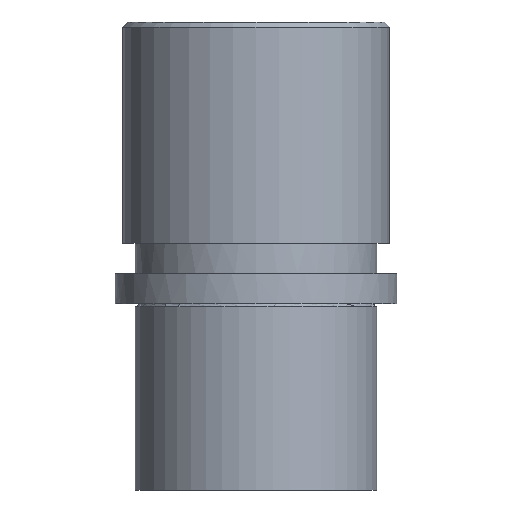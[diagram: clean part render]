
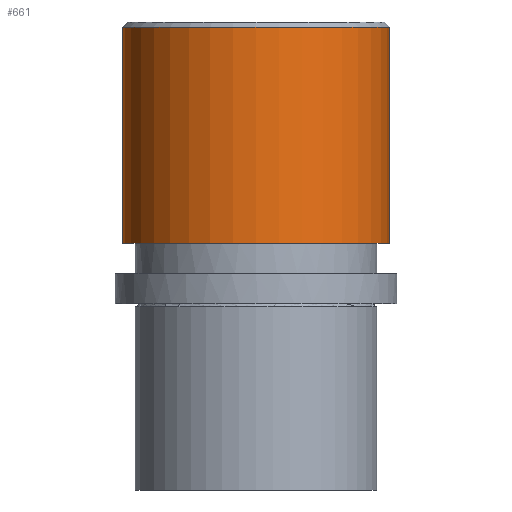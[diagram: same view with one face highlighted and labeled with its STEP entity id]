
A CAD part, front view. The second image highlights one B-rep face of the part: STEP entity #661.
In plain terms, the highlighted cylindrical face has radius 26.5 mm (diameter 53 mm), a partial arc.
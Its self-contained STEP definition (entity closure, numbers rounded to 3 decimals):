
#505=CARTESIAN_POINT('Vertex',(-26.5,0.,55.)) ;
#512=CARTESIAN_POINT('Vertex',(26.5,0.,55.)) ;
#532=CARTESIAN_POINT('Axis2P3D Location',(0.,0.,55.)) ;
#619=CARTESIAN_POINT('Line Origine',(-26.5,0.,56.)) ;
#623=CARTESIAN_POINT('Vertex',(-26.5,0.,12.)) ;
#626=CARTESIAN_POINT('Line Origine',(26.5,0.,56.)) ;
#630=CARTESIAN_POINT('Vertex',(26.5,0.,12.)) ;
#645=CARTESIAN_POINT('Axis2P3D Location',(0.,0.,56.)) ;
#650=CARTESIAN_POINT('Axis2P3D Location',(0.,0.,12.)) ;
#533=DIRECTION('Axis2P3D Direction',(0.,0.,-1.)) ;
#620=DIRECTION('Vector Direction',(0.,0.,-1.)) ;
#627=DIRECTION('Vector Direction',(0.,0.,-1.)) ;
#646=DIRECTION('Axis2P3D Direction',(0.,0.,-1.)) ;
#647=DIRECTION('Axis2P3D XDirection',(1.,0.,0.)) ;
#651=DIRECTION('Axis2P3D Direction',(0.,0.,-1.)) ;
#534=AXIS2_PLACEMENT_3D('Circle Axis2P3D',#532,#533,$) ;
#648=AXIS2_PLACEMENT_3D('Cylinder Axis2P3D',#645,#646,#647) ;
#652=AXIS2_PLACEMENT_3D('Circle Axis2P3D',#650,#651,$) ;
#656=ORIENTED_EDGE('',*,*,#632,.T.) ;
#657=ORIENTED_EDGE('',*,*,#536,.F.) ;
#658=ORIENTED_EDGE('',*,*,#625,.T.) ;
#659=ORIENTED_EDGE('',*,*,#654,.T.) ;
#621=VECTOR('Line Direction',#620,1.) ;
#628=VECTOR('Line Direction',#627,1.) ;
#661=ADVANCED_FACE('734-32',(#660),#649,.T.) ;
#535=CIRCLE('generated circle',#534,26.5) ;
#653=CIRCLE('generated circle',#652,26.5) ;
#649=CYLINDRICAL_SURFACE('generated cylinder',#648,26.5) ;
#536=EDGE_CURVE('',#506,#513,#535,.F.) ;
#625=EDGE_CURVE('',#506,#624,#622,.T.) ;
#632=EDGE_CURVE('',#631,#513,#629,.F.) ;
#654=EDGE_CURVE('',#624,#631,#653,.F.) ;
#655=EDGE_LOOP('',(#656,#657,#658,#659)) ;
#660=FACE_OUTER_BOUND('',#655,.T.) ;
#622=LINE('Line',#619,#621) ;
#629=LINE('Line',#626,#628) ;
#506=VERTEX_POINT('',#505) ;
#513=VERTEX_POINT('',#512) ;
#624=VERTEX_POINT('',#623) ;
#631=VERTEX_POINT('',#630) ;
